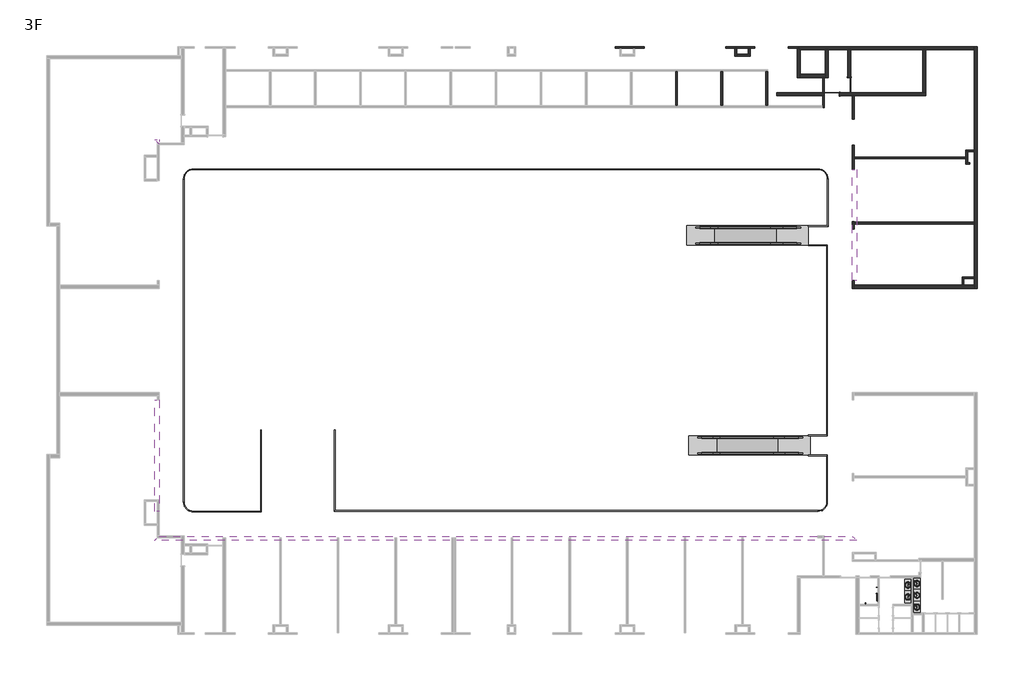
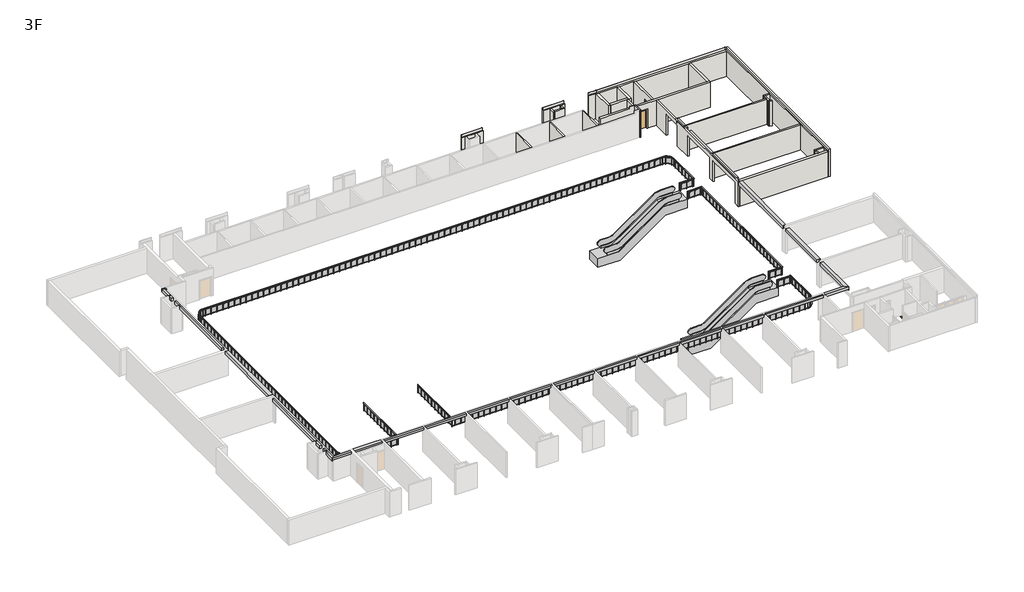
# One storey, part 4 of 4: 27 walls, 9 flow terminals, 4 beams, 3 railings, 2 doors, 2 proxies.
"""IFC4 building model written with IfcOpenShell, lengths in millimetres."""

from ifc_helpers import new_model, si_unit, frame, origin, place, context, project, spatial, polyline, outline, extrude, faceted_brep, transform, mapped, element, save
from components import escalator_escalator_upper_floors_03ccc224, escalator_escalator_upper_floors_265e6ffc, m_single_flush_d_1200x2150_ab82cfb8, m_single_flush_d_1200x2150_9af03719, grab_rail_horizontal_grab_bar_horizontal_3488bc9b, grab_rail_vertical_grab_rail_vertical_4faa361f, sink_bathroom_2_sink_bathroom_2_b4141ae8, sink_bathroom_2_sink_bathroom_2_ad220687, handrail_glass_panel_1c422638, handrail_glass_panel_ca02703f, handrail_glass_panel_252f81a2, handrail_glass_panel_64a25707, handrail_glass_panel_72f4f8c0, handrail_glass_panel_15cabfa0, handrail_glass_panel_71ff9b3e

model = new_model("IFC4")

# Units and contexts
model_context = context("Model", 3, world=origin())
ifc_project = project(units=[si_unit("LENGTHUNIT", "METRE", prefix="MILLI")], contexts=[model_context])

# Site, building, storey
site = spatial("IfcSite", under=ifc_project)
building = spatial("IfcBuilding", under=site)
storey = spatial("IfcBuildingStorey", under=building, Name="3F", Elevation=11850.0)

# Beams
placement = place(None, origin())
element("IfcBeam", 1, ObjectType="M_Concrete-Rectangular Beam : 350 x 550mm", at=placement, inside=storey, context=model_context, shape_type="SweptSolid", body=[
    extrude(outline(polyline([(33312.4134101, 13797.3851347), (32962.4134101, 13447.3851347), (32950.4134101, 13447.3851347), (32950.4134101, 13797.3851347), (33312.4134101, 13797.3851347)])), frame((0.0, 0.0, 14450.0), z_axis=(0.0, 0.0, 1.0), x_axis=(1.0, 0.0, 0.0)), (0.0, 0.0, 1.0), 275.0),
    extrude(outline(polyline([(-22537.5865899, 13447.3851347), (-22887.5865899, 13797.3851347), (-22525.5865899, 13797.3851347), (-22525.5865899, 13447.3851347), (-22537.5865899, 13447.3851347)])), frame((0.0, 0.0, 14450.0), z_axis=(0.0, 0.0, 1.0), x_axis=(1.0, 0.0, 0.0)), (0.0, 0.0, 1.0), 275.0),
])
element("IfcBeam", 2, ObjectType="M_Concrete-Rectangular Beam : 350 x 550mm", at=placement, inside=storey, context=model_context, shape_type="Brep", body=[
    faceted_brep([(32962.4134101, -13522.6148653, 14375.0), (32962.4134101, -17972.6148653, 14375.0), (32962.4134101, -17972.6148653, 14725.0), (32962.4134101, -13522.6148653, 14725.0), (33312.4134101, -18322.6148653, 14375.0), (33312.4134101, -13522.6148653, 14375.0), (33312.4134101, -13522.6148653, 14725.0), (33312.4134101, -18322.6148653, 14725.0)], [[[0, 1, 2, 3]], [[4, 1, 0, 5]], [[4, 5, 6, 7]], [[1, 4, 7, 2]], [[5, 0, 3, 6]], [[3, 2, 7, 6]]]),
    faceted_brep([(33312.4134101, 13797.3851347, 14375.0), (32962.4134101, 13447.3851347, 14375.0), (32962.4134101, 13447.3851347, 14450.0), (32962.4134101, 13447.3851347, 14725.0), (33312.4134101, 13797.3851347, 14725.0), (33312.4134101, 13797.3851347, 14450.0), (32962.4134101, 11997.3851347, 14375.0), (33312.4134101, 11997.3851347, 14375.0), (33312.4134101, 11997.3851347, 14725.0), (32962.4134101, 11997.3851347, 14725.0)], [[[0, 1, 2, 3, 4, 5]], [[6, 7, 8, 9]], [[2, 1, 6, 9, 3]], [[1, 0, 7, 6]], [[0, 5, 4, 8, 7]], [[4, 3, 9, 8]]]),
    faceted_brep([(32962.4134101, -12922.6148653, 14375.0), (33312.4134101, -12922.6148653, 14375.0), (33312.4134101, -12922.6148653, 14725.0), (32962.4134101, -12922.6148653, 14725.0), (32962.4134101, -7072.6148653, 14375.0), (32962.4134101, -7072.6148653, 14725.0), (33312.4134101, -7072.6148653, 14375.0), (33312.4134101, -7072.6148653, 14725.0)], [[[0, 1, 2, 3]], [[4, 0, 3, 5]], [[1, 0, 4, 6]], [[1, 6, 7, 2]], [[6, 4, 5, 7]], [[3, 2, 7, 5]]]),
    faceted_brep([(32962.4134101, -6472.6148653, 14375.0), (33312.4134101, -6472.6148653, 14375.0), (33312.4134101, -6472.6148653, 14725.0), (32962.4134101, -6472.6148653, 14725.0), (32962.4134101, 1897.3851347, 14375.0), (32962.4134101, 1897.3851347, 14725.0), (33312.4134101, 1897.3851347, 14375.0), (33312.4134101, 1897.3851347, 14725.0)], [[[0, 1, 2, 3]], [[4, 0, 3, 5]], [[1, 0, 4, 6]], [[1, 6, 7, 2]], [[6, 4, 5, 7]], [[3, 2, 7, 5]]]),
    faceted_brep([(33312.4134101, 11397.3851347, 14375.0), (32962.4134101, 11397.3851347, 14375.0), (32962.4134101, 11397.3851347, 14725.0), (33312.4134101, 11397.3851347, 14725.0), (32962.4134101, 2497.3851347, 14375.0), (33312.4134101, 2497.3851347, 14375.0), (33312.4134101, 2497.3851347, 14725.0), (32962.4134101, 2497.3851347, 14725.0)], [[[0, 1, 2, 3]], [[4, 5, 6, 7]], [[1, 4, 7, 2]], [[1, 0, 5, 4]], [[5, 0, 3, 6]], [[3, 2, 7, 6]]]),
])
element("IfcBeam", 3, ObjectType="M_Concrete-Rectangular Beam : 350 x 550mm", at=placement, inside=storey, context=model_context, shape_type="SweptSolid", body=[
    extrude(outline(polyline([(-22537.5865899, -17972.6148653), (32962.4134101, -17972.6148653), (33312.4134101, -18322.6148653), (-22887.5865899, -18322.6148653), (-22537.5865899, -17972.6148653)])), frame((0.0, 0.0, 14450.0), z_axis=(0.0, 0.0, 1.0), x_axis=(1.0, 0.0, 0.0)), (0.0, 0.0, 1.0), 275.0),
])
element("IfcBeam", 4, ObjectType="M_Concrete-Rectangular Beam : 350 x 550mm", at=placement, inside=storey, context=model_context, shape_type="Brep", body=[
    faceted_brep([(-22537.5865899, 13447.3851347, 14375.0), (-22537.5865899, 13447.3851347, 14450.0), (-22537.5865899, 13447.3851347, 14725.0), (-22537.5865899, 11997.3851347, 14725.0), (-22537.5865899, 11997.3851347, 14375.0), (-22887.5865899, 13797.3851347, 14375.0), (-22887.5865899, 11997.3851347, 14375.0), (-22887.5865899, 13797.3851347, 14450.0), (-22887.5865899, 11997.3851347, 14725.0), (-22887.5865899, 13797.3851347, 14725.0)], [[[0, 1, 2, 3, 4]], [[5, 0, 4, 6]], [[7, 5, 6, 8, 9]], [[0, 5, 7, 9, 2, 1]], [[6, 4, 3, 8]], [[3, 2, 9, 8]]]),
    faceted_brep([(-22887.5865899, -18322.6148653, 14375.0), (-22537.5865899, -17972.6148653, 14375.0), (-22537.5865899, -17972.6148653, 14450.0), (-22537.5865899, -17972.6148653, 14725.0), (-22887.5865899, -18322.6148653, 14725.0), (-22887.5865899, -18322.6148653, 14450.0), (-22537.5865899, -16572.6148653, 14375.0), (-22887.5865899, -16572.6148653, 14375.0), (-22887.5865899, -16572.6148653, 14725.0), (-22537.5865899, -16572.6148653, 14725.0)], [[[0, 1, 2, 3, 4, 5]], [[6, 7, 8, 9]], [[2, 1, 6, 9, 3]], [[1, 0, 7, 6]], [[0, 5, 4, 8, 7]], [[4, 3, 9, 8]]]),
    faceted_brep([(-22887.5865899, -6472.6148653, 14375.0), (-22537.5865899, -6472.6148653, 14375.0), (-22537.5865899, -6472.6148653, 14725.0), (-22887.5865899, -6472.6148653, 14725.0), (-22537.5865899, 1897.3851347, 14375.0), (-22887.5865899, 1897.3851347, 14375.0), (-22887.5865899, 1897.3851347, 14725.0), (-22537.5865899, 1897.3851347, 14725.0)], [[[0, 1, 2, 3]], [[4, 5, 6, 7]], [[1, 4, 7, 2]], [[1, 0, 5, 4]], [[5, 0, 3, 6]], [[3, 2, 7, 6]]]),
    faceted_brep([(-22537.5865899, -7072.6148653, 14375.0), (-22887.5865899, -7072.6148653, 14375.0), (-22887.5865899, -7072.6148653, 14725.0), (-22537.5865899, -7072.6148653, 14725.0), (-22537.5865899, -15972.6148653, 14375.0), (-22537.5865899, -15972.6148653, 14725.0), (-22887.5865899, -15972.6148653, 14375.0), (-22887.5865899, -15972.6148653, 14725.0)], [[[0, 1, 2, 3]], [[4, 0, 3, 5]], [[1, 0, 4, 6]], [[1, 6, 7, 2]], [[6, 4, 5, 7]], [[3, 2, 7, 5]]]),
    faceted_brep([(-22887.5865899, 2497.3851347, 14375.0), (-22537.5865899, 2497.3851347, 14375.0), (-22537.5865899, 2497.3851347, 14725.0), (-22887.5865899, 2497.3851347, 14725.0), (-22537.5865899, 11397.3851347, 14375.0), (-22887.5865899, 11397.3851347, 14375.0), (-22887.5865899, 11397.3851347, 14725.0), (-22537.5865899, 11397.3851347, 14725.0)], [[[0, 1, 2, 3]], [[4, 5, 6, 7]], [[1, 4, 7, 2]], [[1, 0, 5, 4]], [[5, 0, 3, 6]], [[3, 2, 7, 6]]]),
])

# Proxies
escalator_escalator_upper_floors_shape = escalator_escalator_upper_floors_03ccc224(model_context)
element("IfcBuildingElementProxy", 5, Name="ESCALATOR : ESCALATOR-upper floors", ObjectType="ESCALATOR : ESCALATOR-upper floors", at=placement, inside=storey, context=model_context, shape_type="MappedRepresentation", body=[
    mapped(escalator_escalator_upper_floors_shape, transform((31331.3835332, 6122.3851347, 7900.0), x_axis=(1.0, 0.0, 0.0), y_axis=(0.0, 1.0, 0.0), z_axis=(0.0, 0.0, 1.0))),
])
escalator_escalator_upper_floors_2_shape = escalator_escalator_upper_floors_265e6ffc(model_context)
element("IfcBuildingElementProxy", 6, Name="ESCALATOR : ESCALATOR-upper floors", ObjectType="ESCALATOR : ESCALATOR-upper floors", at=placement, inside=storey, context=model_context, shape_type="MappedRepresentation", body=[
    mapped(escalator_escalator_upper_floors_2_shape, transform((31506.3835332, -10697.6148653, 7900.0), x_axis=(1.0, 0.0, 0.0), y_axis=(0.0, 1.0, 0.0), z_axis=(0.0, 0.0, 1.0))),
])

# Doors
m_single_flush_d_1200x2150_shape = m_single_flush_d_1200x2150_ab82cfb8(model_context)
element("IfcDoor", 7, ObjectType="M_Single-Flush : D-1200x2150", at=placement, inside=storey, context=model_context, shape_type="MappedRepresentation", body=[
    mapped(m_single_flush_d_1200x2150_shape, transform((32705.9134101, 18167.3851347, 11850.0), x_axis=(0.0, -1.0, 0.0), y_axis=(1.0, 0.0, 0.0), z_axis=(0.0, 0.0, 1.0))),
])
m_single_flush_d_1200x2150_2_shape = m_single_flush_d_1200x2150_9af03719(model_context)
element("IfcDoor", 8, ObjectType="M_Single-Flush : D-1200x2150", at=placement, inside=storey, context=model_context, shape_type="MappedRepresentation", body=[
    mapped(m_single_flush_d_1200x2150_2_shape, transform((31312.4134101, 17450.8851347, 11850.0), x_axis=(-1.0, 0.0, 0.0), y_axis=(0.0, -1.0, 0.0), z_axis=(0.0, 0.0, 1.0))),
])

# Flow terminals
grab_rail_horizontal_grab_bar_horizontal_shape = grab_rail_horizontal_grab_bar_horizontal_3488bc9b(model_context)
element("IfcFlowTerminal", 9, ObjectType="Grab Rail - Horizontal : Grab Bar Horizontal", at=placement, inside=storey, context=model_context, shape_type="MappedRepresentation", body=[
    mapped(grab_rail_horizontal_grab_bar_horizontal_shape, transform((34992.4134101, -23724.4105318, 11850.0), x_axis=(0.0, -1.0, 0.0), y_axis=(1.0, 0.0, 0.0), z_axis=(0.0, 0.0, 1.0))),
])
grab_rail_vertical_grab_rail_vertical_shape = grab_rail_vertical_grab_rail_vertical_4faa361f(model_context)
element("IfcFlowTerminal", 10, ObjectType="Grab Rail - Vertical : Grab Rail Vertical", at=placement, inside=storey, context=model_context, shape_type="MappedRepresentation", body=[
    mapped(grab_rail_vertical_grab_rail_vertical_shape, transform((33166.6177436, -23422.6148653, 11850.0), x_axis=(-1.0, 0.0, 0.0), y_axis=(0.0, -1.0, 0.0), z_axis=(0.0, 0.0, 1.0))),
])
element("IfcFlowTerminal", 11, ObjectType="Grab Rail - Vertical : Grab Rail Vertical", at=placement, inside=storey, context=model_context, shape_type="MappedRepresentation", body=[
    mapped(grab_rail_vertical_grab_rail_vertical_shape, transform((34992.4134101, -23424.4105318, 11850.0), x_axis=(0.0, -1.0, 0.0), y_axis=(1.0, 0.0, 0.0), z_axis=(0.0, 0.0, 1.0))),
])
element("IfcFlowTerminal", 12, ObjectType="Grab Rail - Vertical : Grab Rail Vertical", at=placement, inside=storey, context=model_context, shape_type="MappedRepresentation", body=[
    mapped(grab_rail_vertical_grab_rail_vertical_shape, transform((34992.4134101, -22924.4105318, 11850.0), x_axis=(0.0, -1.0, 0.0), y_axis=(1.0, 0.0, 0.0), z_axis=(0.0, 0.0, 1.0))),
])
sink_bathroom_2_sink_bathroom_2_shape = sink_bathroom_2_sink_bathroom_2_b4141ae8(model_context)
element("IfcFlowTerminal", 13, ObjectType="Sink - Bathroom (2) : Sink - Bathroom (2)", at=placement, inside=storey, context=model_context, shape_type="MappedRepresentation", body=[
    mapped(sink_bathroom_2_sink_bathroom_2_shape, transform((37822.4134101, -22732.4647318, 11850.0), x_axis=(0.0, 1.0, 0.0), y_axis=(-1.0, 0.0, 0.0), z_axis=(0.0, 0.0, 1.0))),
])
element("IfcFlowTerminal", 14, ObjectType="Sink - Bathroom (2) : Sink - Bathroom (2)", at=placement, inside=storey, context=model_context, shape_type="MappedRepresentation", body=[
    mapped(sink_bathroom_2_sink_bathroom_2_shape, transform((37822.4134101, -21782.4647318, 11850.0), x_axis=(0.0, 1.0, 0.0), y_axis=(-1.0, 0.0, 0.0), z_axis=(0.0, 0.0, 1.0))),
])
element("IfcFlowTerminal", 15, ObjectType="Sink - Bathroom (2) : Sink - Bathroom (2)", at=placement, inside=storey, context=model_context, shape_type="MappedRepresentation", body=[
    mapped(sink_bathroom_2_sink_bathroom_2_shape, transform((37822.4134101, -23682.4647318, 11850.0), x_axis=(0.0, 1.0, 0.0), y_axis=(-1.0, 0.0, 0.0), z_axis=(0.0, 0.0, 1.0))),
])
sink_bathroom_2_sink_bathroom_2_2_shape = sink_bathroom_2_sink_bathroom_2_ad220687(model_context)
element("IfcFlowTerminal", 16, ObjectType="Sink - Bathroom (2) : Sink - Bathroom (2)", at=placement, inside=storey, context=model_context, shape_type="MappedRepresentation", body=[
    mapped(sink_bathroom_2_sink_bathroom_2_2_shape, transform((37707.4134101, -22859.9647318, 11850.0), x_axis=(0.0, 1.0, 0.0), y_axis=(-1.0, 0.0, 0.0), z_axis=(0.0, 0.0, 1.0))),
])
element("IfcFlowTerminal", 17, ObjectType="Sink - Bathroom (2) : Sink - Bathroom (2)", at=placement, inside=storey, context=model_context, shape_type="MappedRepresentation", body=[
    mapped(sink_bathroom_2_sink_bathroom_2_2_shape, transform((37707.4134101, -21909.9647318, 11850.0), x_axis=(0.0, 1.0, 0.0), y_axis=(-1.0, 0.0, 0.0), z_axis=(0.0, 0.0, 1.0))),
])

# Railings
handrail_glass_panel_shape = handrail_glass_panel_1c422638(model_context)
handrail_glass_panel_2_shape = handrail_glass_panel_ca02703f(model_context)
handrail_glass_panel_3_shape = handrail_glass_panel_252f81a2(model_context)
handrail_glass_panel_4_shape = handrail_glass_panel_64a25707(model_context)
element("IfcRailing", 18, ObjectType="Handrail - Glass Panel", at=placement, inside=storey, context=model_context, shape_type="MappedRepresentation", body=[
    mapped(handrail_glass_panel_shape, transform((0.0, 0.0, 0.0), x_axis=(1.0, 0.0, 0.0), y_axis=(0.0, 1.0, 0.0), z_axis=(0.0, 0.0, 1.0))),
    mapped(handrail_glass_panel_2_shape, transform((0.0, 0.0, 0.0), x_axis=(1.0, 0.0, 0.0), y_axis=(0.0, 1.0, 0.0), z_axis=(0.0, 0.0, 1.0))),
    mapped(handrail_glass_panel_3_shape, transform((0.0, 0.0, 0.0), x_axis=(1.0, 0.0, 0.0), y_axis=(0.0, 1.0, 0.0), z_axis=(0.0, 0.0, 1.0))),
    mapped(handrail_glass_panel_4_shape, transform((0.0, 0.0, 0.0), x_axis=(1.0, 0.0, 0.0), y_axis=(0.0, 1.0, 0.0), z_axis=(0.0, 0.0, 1.0))),
])
handrail_glass_panel_5_shape = handrail_glass_panel_72f4f8c0(model_context)
element("IfcRailing", 19, ObjectType="Handrail - Glass Panel", at=placement, inside=storey, context=model_context, shape_type="MappedRepresentation", body=[
    mapped(handrail_glass_panel_5_shape, transform((0.0, 0.0, 0.0), x_axis=(1.0, 0.0, 0.0), y_axis=(0.0, 1.0, 0.0), z_axis=(0.0, 0.0, 1.0))),
])
handrail_glass_panel_6_shape = handrail_glass_panel_15cabfa0(model_context)
handrail_glass_panel_7_shape = handrail_glass_panel_71ff9b3e(model_context)
element("IfcRailing", 20, ObjectType="Handrail - Glass Panel", at=placement, inside=storey, context=model_context, shape_type="MappedRepresentation", body=[
    mapped(handrail_glass_panel_6_shape, transform((0.0, 0.0, 0.0), x_axis=(1.0, 0.0, 0.0), y_axis=(0.0, 1.0, 0.0), z_axis=(0.0, 0.0, 1.0))),
    mapped(handrail_glass_panel_7_shape, transform((0.0, 0.0, 0.0), x_axis=(1.0, 0.0, 0.0), y_axis=(0.0, 1.0, 0.0), z_axis=(0.0, 0.0, 1.0))),
])

# Walls
element("IfcWall", 21, ObjectType="wall-115", at=placement, inside=storey, context=model_context, shape_type="Brep", body=[
    faceted_brep([(42055.4134101, 12824.8851347, 11850.0), (42055.4134101, 12404.5507406, 11850.0), (42055.4134101, 12262.5507406, 11850.0), (42055.4134101, 11962.3851347, 11850.0), (42055.4134101, 11962.3851347, 14725.0), (42055.4134101, 12262.5507406, 14725.0), (42055.4134101, 12404.5507406, 14725.0), (42055.4134101, 12824.8851347, 14725.0), (42197.4134101, 11962.3851347, 11850.0), (42197.4134101, 12824.8851347, 11850.0), (42197.4134101, 12824.8851347, 14725.0), (42197.4134101, 11962.3851347, 14725.0)], [[[0, 1, 2, 3, 4, 5, 6, 7]], [[8, 9, 10, 11]], [[3, 2, 1, 0, 9, 8]], [[3, 8, 11, 4]], [[9, 0, 7, 10]], [[7, 6, 5, 4, 11, 10]]]),
])
element("IfcWall", 22, ObjectType="wall-115", at=placement, inside=storey, context=model_context, shape_type="Brep", body=[
    faceted_brep([(42055.4134101, 11820.3851347, 11850.0), (42362.4134101, 11820.3851347, 11850.0), (42362.4134101, 11820.3851347, 14725.0), (42055.4134101, 11820.3851347, 14725.0), (42362.4134101, 11962.3851347, 11850.0), (42197.4134101, 11962.3851347, 11850.0), (42055.4134101, 11962.3851347, 11850.0), (42055.4134101, 11962.3851347, 14725.0), (42197.4134101, 11962.3851347, 14725.0), (42362.4134101, 11962.3851347, 14725.0)], [[[0, 1, 2, 3]], [[4, 5, 6, 7, 8, 9]], [[1, 0, 6, 5, 4]], [[1, 4, 9, 2]], [[6, 0, 3, 7]], [[3, 2, 9, 8, 7]]]),
])
element("IfcWall", 23, ObjectType="wall-115", at=placement, inside=storey, context=model_context, shape_type="Brep", body=[
    faceted_brep([(42717.4134101, 2804.3851347, 11850.0), (41750.4134101, 2804.3851347, 11850.0), (41750.4134101, 2804.3851347, 14725.0), (42717.4134101, 2804.3851347, 14725.0), (41750.4134101, 2662.3851347, 11850.0), (41892.4134101, 2662.3851347, 11850.0), (42717.4134101, 2662.3851347, 11850.0), (42717.4134101, 2662.3851347, 14725.0), (41892.4134101, 2662.3851347, 14725.0), (41750.4134101, 2662.3851347, 14725.0)], [[[0, 1, 2, 3]], [[4, 5, 6, 7, 8, 9]], [[1, 0, 6, 5, 4]], [[1, 4, 9, 2]], [[6, 0, 3, 7]], [[3, 2, 9, 8, 7]]]),
])
element("IfcWall", 24, ObjectType="wall-115", at=placement, inside=storey, context=model_context, shape_type="SweptSolid", body=[
    extrude(outline(polyline([(41750.4134101, 2142.3851347), (41750.4134101, 2662.3851347), (41892.4134101, 2662.3851347), (41892.4134101, 2142.3851347), (41750.4134101, 2142.3851347)])), frame((0.0, 0.0, 11850.0), z_axis=(0.0, 0.0, 1.0), x_axis=(1.0, 0.0, 0.0)), (0.0, 0.0, 1.0), 2875.0),
])
element("IfcWall", 25, ObjectType="wall-115", at=placement, inside=storey, context=model_context, shape_type="Brep", body=[
    faceted_brep([(30724.4134101, 17579.3851347, 11850.0), (30724.4134101, 18772.3851347, 11850.0), (30724.4134101, 18772.3851347, 14725.0), (30724.4134101, 17579.3851347, 14725.0), (30582.4134101, 18772.3851347, 11850.0), (30582.4134101, 17579.3851347, 11850.0), (30582.4134101, 17579.3851347, 14725.0), (30582.4134101, 18772.3851347, 14725.0), (30712.4134101, 17579.3851347, 11850.0)], [[[0, 1, 2, 3]], [[4, 5, 6, 7]], [[4, 1, 0, 8, 5]], [[1, 4, 7, 2]], [[5, 8, 0, 3, 6]], [[3, 2, 7, 6]]]),
    faceted_brep([(30724.4134101, 16360.3851347, 11850.0), (30724.4134101, 17322.3851347, 11850.0), (30724.4134101, 17322.3851347, 14725.0), (30724.4134101, 16360.3851347, 14725.0), (30582.4134101, 16360.3851347, 11850.0), (30582.4134101, 16360.3851347, 15000.0), (30582.4134101, 16502.3851347, 15000.0), (30582.4134101, 17322.3851347, 15000.0), (30582.4134101, 17322.3851347, 11850.0), (30582.4134101, 16502.3851347, 11850.0), (30712.4134101, 17322.3851347, 11850.0), (30672.4134101, 16360.3851347, 15000.0), (30672.4134101, 17322.3851347, 15000.0), (30672.4134101, 16360.3851347, 14725.0), (30672.4134101, 17322.3851347, 14725.0)], [[[0, 1, 2, 3]], [[4, 5, 6, 7, 8, 9]], [[0, 4, 9, 8, 10, 1]], [[7, 6, 5, 11, 12]], [[5, 4, 0, 3, 13, 11]], [[8, 7, 12, 14, 2, 1, 10]], [[14, 13, 3, 2]], [[13, 14, 12, 11]]]),
])
element("IfcWall", 26, ObjectType="wall-115", at=placement, inside=storey, context=model_context, shape_type="Brep", body=[
    faceted_brep([(42055.4134101, 12824.8851347, 11850.0), (42197.4134101, 12824.8851347, 11850.0), (42717.4134101, 12824.8851347, 11850.0), (42717.4134101, 12824.8851347, 14725.0), (42197.4134101, 12824.8851347, 14725.0), (42055.4134101, 12824.8851347, 14725.0), (42717.4134101, 12966.8851347, 11850.0), (42055.4134101, 12966.8851347, 11850.0), (42055.4134101, 12966.8851347, 14725.0), (42717.4134101, 12966.8851347, 14725.0)], [[[0, 1, 2, 3, 4, 5]], [[6, 7, 8, 9]], [[2, 1, 0, 7, 6]], [[7, 0, 5, 8]], [[2, 6, 9, 3]], [[5, 4, 3, 9, 8]]]),
])
element("IfcWall", 27, ObjectType="wall-115", at=placement, inside=storey, context=model_context, shape_type="SweptSolid", body=[
    extrude(outline(polyline([(18812.4134101, 16502.3851347), (18812.4134101, 19272.3851347), (18954.4134101, 19272.3851347), (18954.4134101, 16502.3851347), (18812.4134101, 16502.3851347)])), frame((0.0, 0.0, 11850.0), z_axis=(0.0, 0.0, 1.0), x_axis=(1.0, 0.0, 0.0)), (0.0, 0.0, 1.0), 2875.0),
])
element("IfcWall", 28, ObjectType="wall-115", at=placement, inside=storey, context=model_context, shape_type="SweptSolid", body=[
    extrude(outline(polyline([(22427.4134101, 16502.3851347), (22427.4134101, 19272.3851347), (22569.4134101, 19272.3851347), (22569.4134101, 16502.3851347), (22427.4134101, 16502.3851347)])), frame((0.0, 0.0, 11850.0), z_axis=(0.0, 0.0, 1.0), x_axis=(1.0, 0.0, 0.0)), (0.0, 0.0, 1.0), 2875.0),
])
element("IfcWall", 29, ObjectType="wall-115", at=placement, inside=storey, context=model_context, shape_type="SweptSolid", body=[
    extrude(outline(polyline([(26042.4134101, 16502.3851347), (26042.4134101, 19272.3851347), (26184.4134101, 19272.3851347), (26184.4134101, 16502.3851347), (26042.4134101, 16502.3851347)])), frame((0.0, 0.0, 11850.0), z_axis=(0.0, 0.0, 1.0), x_axis=(1.0, 0.0, 0.0)), (0.0, 0.0, 1.0), 2875.0),
])
element("IfcWall", 30, ObjectType="wall-115", at=placement, inside=storey, context=model_context, shape_type="Brep", body=[
    faceted_brep([(13967.4134101, 21117.3851347, 11850.0), (14327.4134101, 21117.3851347, 11850.0), (14469.4134101, 21117.3851347, 11850.0), (15415.4134101, 21117.3851347, 11850.0), (15557.4134101, 21117.3851347, 11850.0), (16287.4134101, 21117.3851347, 11850.0), (16287.4134101, 21117.3851347, 14725.0), (15557.4134101, 21117.3851347, 14725.0), (15415.4134101, 21117.3851347, 14725.0), (14469.4134101, 21117.3851347, 14725.0), (14327.4134101, 21117.3851347, 14725.0), (13967.4134101, 21117.3851347, 14725.0), (16287.4134101, 21259.3851347, 11850.0), (13967.4134101, 21259.3851347, 11850.0), (13967.4134101, 21259.3851347, 15000.0), (16287.4134101, 21259.3851347, 15000.0), (16287.4134101, 21235.3851347, 15000.0), (16287.4134101, 21235.3851347, 14725.0), (13967.4134101, 21235.3851347, 15000.0), (13967.4134101, 21235.3851347, 14725.0)], [[[0, 1, 2, 3, 4, 5, 6, 7, 8, 9, 10, 11]], [[12, 13, 14, 15]], [[5, 4, 3, 2, 1, 0, 13, 12]], [[12, 15, 16, 17, 6, 5]], [[15, 14, 18, 16]], [[14, 13, 0, 11, 19, 18]], [[17, 19, 11, 10, 9, 8, 7, 6]], [[19, 17, 16, 18]]]),
])
element("IfcWall", 31, ObjectType="wall-115", at=placement, inside=storey, context=model_context, shape_type="Brep", body=[
    faceted_brep([(22827.4134101, 21117.3851347, 11850.0), (23557.4134101, 21117.3851347, 11850.0), (23699.4134101, 21117.3851347, 11850.0), (24645.4134101, 21117.3851347, 11850.0), (24787.4134101, 21117.3851347, 11850.0), (25147.4134101, 21117.3851347, 11850.0), (25147.4134101, 21117.3851347, 14725.0), (24787.4134101, 21117.3851347, 14725.0), (24645.4134101, 21117.3851347, 14725.0), (23699.4134101, 21117.3851347, 14725.0), (23557.4134101, 21117.3851347, 14725.0), (22827.4134101, 21117.3851347, 14725.0), (25147.4134101, 21259.3851347, 11850.0), (22827.4134101, 21259.3851347, 11850.0), (22827.4134101, 21259.3851347, 15000.0), (25147.4134101, 21259.3851347, 15000.0), (25147.4134101, 21235.3851347, 15000.0), (25147.4134101, 21235.3851347, 14725.0), (22827.4134101, 21235.3851347, 15000.0), (22827.4134101, 21235.3851347, 14725.0)], [[[0, 1, 2, 3, 4, 5, 6, 7, 8, 9, 10, 11]], [[12, 13, 14, 15]], [[5, 4, 3, 2, 1, 0, 13, 12]], [[12, 15, 16, 17, 6, 5]], [[15, 14, 18, 16]], [[14, 13, 0, 11, 19, 18]], [[17, 19, 11, 10, 9, 8, 7, 6]], [[19, 17, 16, 18]]]),
])
element("IfcWall", 32, ObjectType="wall-115", at=placement, inside=storey, context=model_context, shape_type="Brep", body=[
    faceted_brep([(27812.4134101, 21117.3851347, 11850.0), (28542.4134101, 21117.3851347, 11850.0), (28670.9134101, 21117.3851347, 11850.0), (28670.9134101, 21117.3851347, 14725.0), (28542.4134101, 21117.3851347, 14725.0), (27812.4134101, 21117.3851347, 14725.0), (28670.9134101, 21259.3851347, 11850.0), (27812.4134101, 21259.3851347, 11850.0), (27812.4134101, 21259.3851347, 15000.0), (28670.9134101, 21259.3851347, 15000.0), (28670.9134101, 21235.3851347, 15000.0), (28670.9134101, 21235.3851347, 14725.0), (27812.4134101, 21235.3851347, 15000.0), (27812.4134101, 21235.3851347, 14725.0)], [[[0, 1, 2, 3, 4, 5]], [[6, 7, 8, 9]], [[2, 1, 0, 7, 6]], [[6, 9, 10, 11, 3, 2]], [[9, 8, 12, 10]], [[8, 7, 0, 5, 13, 12]], [[11, 13, 5, 4, 3]], [[13, 11, 10, 12]]]),
])
element("IfcWall", 33, ObjectType="wall-115", at=placement, inside=storey, context=model_context, shape_type="SweptSolid", body=[
    extrude(outline(polyline([(42717.4134101, 7047.8851347), (33092.4134101, 7047.8851347), (33092.4134101, 7189.8851347), (42717.4134101, 7189.8851347), (42717.4134101, 7047.8851347)])), frame((0.0, 0.0, 11850.0), z_axis=(0.0, 0.0, 1.0), x_axis=(1.0, 0.0, 0.0)), (0.0, 0.0, 1.0), 2875.0),
])
element("IfcWall", 34, ObjectType="wall-115", at=placement, inside=storey, context=model_context, shape_type="SweptSolid", body=[
    extrude(outline(polyline([(42055.4134101, 12262.5507406), (33092.4134101, 12262.5507406), (33092.4134101, 12404.5507406), (42055.4134101, 12404.5507406), (42055.4134101, 12262.5507406)])), frame((0.0, 0.0, 11850.0), z_axis=(0.0, 0.0, 1.0), x_axis=(1.0, 0.0, 0.0)), (0.0, 0.0, 1.0), 2875.0),
])
element("IfcWall", 35, ObjectType="wall-115", at=placement, inside=storey, context=model_context, shape_type="Brep", body=[
    faceted_brep([(32950.4134101, 2497.3851347, 11850.0), (32950.4134101, 1885.3851347, 11850.0), (32950.4134101, 1885.3851347, 14725.0), (32950.4134101, 14475.3851347, 14725.0), (32950.4134101, 17322.3851347, 14725.0), (32950.4134101, 17322.3851347, 11850.0), (32950.4134101, 15437.9734756, 11850.0), (32950.4134101, 15437.9734756, 14250.0), (32950.4134101, 13356.1280057, 14250.0), (32950.4134101, 13356.1280057, 11850.0), (32950.4134101, 11397.3851347, 11850.0), (32950.4134101, 11397.3851347, 14250.0), (32950.4134101, 7247.3851347, 14250.0), (32950.4134101, 7247.3851347, 11850.0), (32950.4134101, 6647.3851347, 11850.0), (32950.4134101, 6647.3851347, 14250.0), (32950.4134101, 2497.3851347, 14250.0), (33092.4134101, 1885.3851347, 11850.0), (33092.4134101, 2142.3851347, 11850.0), (33092.4134101, 2497.3851347, 11850.0), (33092.4134101, 2497.3851347, 14250.0), (33092.4134101, 6647.3851347, 14250.0), (33092.4134101, 6647.3851347, 11850.0), (33092.4134101, 7047.8851347, 11850.0), (33092.4134101, 7189.8851347, 11850.0), (33092.4134101, 7247.3851347, 11850.0), (33092.4134101, 7247.3851347, 14250.0), (33092.4134101, 11397.3851347, 14250.0), (33092.4134101, 11397.3851347, 11850.0), (33092.4134101, 12262.5507406, 11850.0), (33092.4134101, 12404.5507406, 11850.0), (33092.4134101, 13356.1280057, 11850.0), (33092.4134101, 13356.1280057, 14250.0), (33092.4134101, 15437.9734756, 14250.0), (33092.4134101, 15437.9734756, 11850.0), (33092.4134101, 17322.3851347, 11850.0), (33092.4134101, 17322.3851347, 14725.0), (33092.4134101, 12404.5507406, 14725.0), (33092.4134101, 12262.5507406, 14725.0), (33092.4134101, 7189.8851347, 14725.0), (33092.4134101, 7047.8851347, 14725.0), (33092.4134101, 2142.3851347, 14725.0), (33092.4134101, 1885.3851347, 14725.0)], [[[0, 1, 2, 3, 4, 5, 6, 7, 8, 9, 10, 11, 12, 13, 14, 15, 16]], [[17, 18, 19, 20, 21, 22, 23, 24, 25, 26, 27, 28, 29, 30, 31, 32, 33, 34, 35, 36, 37, 38, 39, 40, 41, 42]], [[17, 1, 0, 19, 18]], [[5, 35, 34, 6]], [[22, 14, 13, 25, 24, 23]], [[28, 10, 9, 31, 30, 29]], [[1, 17, 42, 2]], [[35, 5, 4, 36]], [[15, 21, 20, 16]], [[16, 20, 19, 0]], [[21, 15, 14, 22]], [[27, 26, 12, 11]], [[28, 27, 11, 10]], [[26, 25, 13, 12]], [[33, 32, 8, 7]], [[34, 33, 7, 6]], [[32, 31, 9, 8]], [[3, 2, 42, 41, 40, 39, 38, 37, 36, 4]]]),
])
element("IfcWall", 36, ObjectType="wall-115", at=placement, inside=storey, context=model_context, shape_type="Brep", body=[
    faceted_brep([(23557.4134101, 21117.3851347, 11850.0), (23557.4134101, 20487.3851347, 11850.0), (23557.4134101, 20487.3851347, 14725.0), (23557.4134101, 21117.3851347, 14725.0), (23699.4134101, 20487.3851347, 11850.0), (23699.4134101, 20629.3851347, 11850.0), (23699.4134101, 21117.3851347, 11850.0), (23699.4134101, 21117.3851347, 14725.0), (23699.4134101, 20629.3851347, 14725.0), (23699.4134101, 20487.3851347, 14725.0)], [[[0, 1, 2, 3]], [[4, 5, 6, 7, 8, 9]], [[1, 0, 6, 5, 4]], [[1, 4, 9, 2]], [[6, 0, 3, 7]], [[3, 2, 9, 8, 7]]]),
])
element("IfcWall", 37, ObjectType="wall-115", at=placement, inside=storey, context=model_context, shape_type="Brep", body=[
    faceted_brep([(23699.4134101, 20487.3851347, 11850.0), (24787.4134101, 20487.3851347, 11850.0), (24787.4134101, 20487.3851347, 14725.0), (23699.4134101, 20487.3851347, 14725.0), (24787.4134101, 20629.3851347, 11850.0), (24645.4134101, 20629.3851347, 11850.0), (23699.4134101, 20629.3851347, 11850.0), (23699.4134101, 20629.3851347, 14725.0), (24645.4134101, 20629.3851347, 14725.0), (24787.4134101, 20629.3851347, 14725.0)], [[[0, 1, 2, 3]], [[4, 5, 6, 7, 8, 9]], [[1, 0, 6, 5, 4]], [[1, 4, 9, 2]], [[6, 0, 3, 7]], [[3, 2, 9, 8, 7]]]),
])
element("IfcWall", 38, ObjectType="wall-115", at=placement, inside=storey, context=model_context, shape_type="SweptSolid", body=[
    extrude(outline(polyline([(24787.4134101, 21117.3851347), (24787.4134101, 20629.3851347), (24645.4134101, 20629.3851347), (24645.4134101, 21117.3851347), (24787.4134101, 21117.3851347)])), frame((0.0, 0.0, 11850.0), z_axis=(0.0, 0.0, 1.0), x_axis=(1.0, 0.0, 0.0)), (0.0, 0.0, 1.0), 2875.0),
])
element("IfcWall", 39, ObjectType="wall-230", at=placement, inside=storey, context=model_context, shape_type="Brep", body=[
    faceted_brep([(28799.4134101, 18772.3851347, 11850.0), (28799.4134101, 19029.3851347, 11850.0), (28799.4134101, 21002.3851347, 11850.0), (28799.4134101, 21002.3851347, 14725.0), (28799.4134101, 19029.3851347, 14725.0), (28799.4134101, 18772.3851347, 14725.0), (28542.4134101, 21117.3851347, 11850.0), (28542.4134101, 18772.3851347, 11850.0), (28542.4134101, 18772.3851347, 14725.0), (28542.4134101, 21117.3851347, 14725.0), (28670.9134101, 21117.3851347, 11850.0), (28670.9134101, 21002.3851347, 11850.0), (28670.9134101, 21002.3851347, 14725.0), (28670.9134101, 21117.3851347, 14725.0)], [[[0, 1, 2, 3, 4, 5]], [[6, 7, 8, 9]], [[2, 1, 0, 7, 6, 10, 11]], [[7, 0, 5, 8]], [[2, 11, 12, 3]], [[11, 10, 13, 12]], [[10, 6, 9, 13]], [[5, 4, 3, 12, 13, 9, 8]]]),
])
element("IfcWall", 40, ObjectType="wall-230", at=placement, inside=storey, context=model_context, shape_type="Brep", body=[
    faceted_brep([(38834.4134101, 17579.3851347, 11850.0), (38577.4134101, 17579.3851347, 11850.0), (32834.4134101, 17579.3851347, 11850.0), (32834.4134101, 17579.3851347, 14000.0), (32577.4134101, 17579.3851347, 14000.0), (32577.4134101, 17579.3851347, 11850.0), (31912.4134101, 17579.3851347, 11850.0), (31912.4134101, 17579.3851347, 14000.0), (30712.4134101, 17579.3851347, 14000.0), (30712.4134101, 17579.3851347, 11850.0), (30582.4134101, 17579.3851347, 11850.0), (26907.4134101, 17579.3851347, 11850.0), (26907.4134101, 17579.3851347, 14725.0), (30582.4134101, 17579.3851347, 14725.0), (30724.4134101, 17579.3851347, 14725.0), (32577.4134101, 17579.3851347, 14725.0), (32834.4134101, 17579.3851347, 14725.0), (38577.4134101, 17579.3851347, 14725.0), (38834.4134101, 17579.3851347, 14725.0), (26907.4134101, 17322.3851347, 11850.0), (30582.4134101, 17322.3851347, 11850.0), (30712.4134101, 17322.3851347, 11850.0), (30712.4134101, 17322.3851347, 14000.0), (31912.4134101, 17322.3851347, 14000.0), (31912.4134101, 17322.3851347, 11850.0), (32950.4134101, 17322.3851347, 11850.0), (33092.4134101, 17322.3851347, 11850.0), (38834.4134101, 17322.3851347, 11850.0), (38834.4134101, 17322.3851347, 14725.0), (33092.4134101, 17322.3851347, 14725.0), (32950.4134101, 17322.3851347, 14725.0), (30724.4134101, 17322.3851347, 14725.0), (30672.4134101, 17322.3851347, 14725.0), (30672.4134101, 17322.3851347, 15000.0), (30582.4134101, 17322.3851347, 15000.0), (30072.4134101, 17322.3851347, 15000.0), (30072.4134101, 17322.3851347, 14725.0), (26907.4134101, 17322.3851347, 14725.0), (32577.4134101, 17567.3851347, 11850.0), (32834.4134101, 17567.3851347, 11850.0), (30672.4134101, 17337.3851347, 15000.0), (30072.4134101, 17337.3851347, 15000.0), (32577.4134101, 17567.3851347, 14000.0), (32834.4134101, 17567.3851347, 14000.0), (30072.4134101, 17337.3851347, 14725.0), (30672.4134101, 17337.3851347, 14725.0)], [[[0, 1, 2, 3, 4, 5, 6, 7, 8, 9, 10, 11, 12, 13, 14, 15, 16, 17, 18]], [[19, 20, 21, 22, 23, 24, 25, 26, 27, 28, 29, 30, 31, 32, 33, 34, 35, 36, 37]], [[19, 11, 10, 9, 21, 20]], [[0, 27, 26, 25, 24, 6, 5, 38, 39, 2, 1]], [[11, 19, 37, 12]], [[35, 34, 33, 40, 41]], [[27, 0, 18, 28]], [[42, 38, 5, 4]], [[39, 43, 3, 2]], [[38, 42, 43, 39]], [[43, 42, 4, 3]], [[8, 22, 21, 9]], [[22, 8, 7, 23]], [[23, 7, 6, 24]], [[44, 45, 32, 31, 30, 29, 28, 18, 17, 16, 15, 14, 13, 12, 37, 36]], [[45, 44, 41, 40]], [[41, 44, 36, 35]], [[45, 40, 33, 32]]]),
])
element("IfcWall", 41, ObjectType="wall-230", at=placement, inside=storey, context=model_context, shape_type="Brep", body=[
    faceted_brep([(42974.4134101, 1885.3851347, 11850.0), (42974.4134101, 21259.3851347, 11850.0), (42974.4134101, 21259.3851347, 15000.0), (42974.4134101, 1885.3851347, 15000.0), (42717.4134101, 21259.3851347, 11850.0), (42717.4134101, 21002.3851347, 11850.0), (42717.4134101, 12966.8851347, 11850.0), (42717.4134101, 12824.8851347, 11850.0), (42717.4134101, 7189.8851347, 11850.0), (42717.4134101, 7047.8851347, 11850.0), (42717.4134101, 2804.3851347, 11850.0), (42717.4134101, 2662.3851347, 11850.0), (42717.4134101, 2142.3851347, 11850.0), (42717.4134101, 1885.3851347, 11850.0), (42717.4134101, 1885.3851347, 14725.0), (42717.4134101, 2142.3851347, 14725.0), (42717.4134101, 2662.3851347, 14725.0), (42717.4134101, 2804.3851347, 14725.0), (42717.4134101, 7047.8851347, 14725.0), (42717.4134101, 7189.8851347, 14725.0), (42717.4134101, 12824.8851347, 14725.0), (42717.4134101, 12966.8851347, 14725.0), (42717.4134101, 21002.3851347, 14725.0), (42717.4134101, 21235.3851347, 14725.0), (42717.4134101, 21235.3851347, 15000.0), (42717.4134101, 21259.3851347, 15000.0), (42824.4134101, 21235.3851347, 15000.0), (42824.4134101, 1885.3851347, 15000.0), (42824.4134101, 1885.3851347, 14725.0), (42824.4134101, 21235.3851347, 14725.0)], [[[0, 1, 2, 3]], [[4, 5, 6, 7, 8, 9, 10, 11, 12, 13, 14, 15, 16, 17, 18, 19, 20, 21, 22, 23, 24, 25]], [[1, 0, 13, 12, 11, 10, 9, 8, 7, 6, 5, 4]], [[3, 2, 25, 24, 26, 27]], [[0, 3, 27, 28, 14, 13]], [[2, 1, 4, 25]], [[28, 29, 23, 22, 21, 20, 19, 18, 17, 16, 15, 14]], [[29, 26, 24, 23]], [[29, 28, 27, 26]]]),
])
element("IfcWall", 42, ObjectType="wall-230", at=placement, inside=storey, context=model_context, shape_type="SweptSolid", body=[
    extrude(outline(polyline([(38834.4134101, 21002.3851347), (38834.4134101, 17579.3851347), (38577.4134101, 17579.3851347), (38577.4134101, 21002.3851347), (38834.4134101, 21002.3851347)])), frame((0.0, 0.0, 11850.0), z_axis=(0.0, 0.0, 1.0), x_axis=(1.0, 0.0, 0.0)), (0.0, 0.0, 1.0), 2875.0),
])
element("IfcWall", 43, ObjectType="wall-230", at=placement, inside=storey, context=model_context, shape_type="Brep", body=[
    faceted_brep([(30775.4134101, 21002.3851347, 11850.0), (30775.4134101, 19029.3851347, 11850.0), (30775.4134101, 18772.3851347, 11850.0), (30775.4134101, 18772.3851347, 14725.0), (30775.4134101, 19029.3851347, 14725.0), (30775.4134101, 21002.3851347, 14725.0), (31032.4134101, 18772.3851347, 11850.0), (31032.4134101, 21002.3851347, 11850.0), (31032.4134101, 21002.3851347, 14725.0), (31032.4134101, 18772.3851347, 14725.0)], [[[0, 1, 2, 3, 4, 5]], [[6, 7, 8, 9]], [[2, 1, 0, 7, 6]], [[2, 6, 9, 3]], [[7, 0, 5, 8]], [[5, 4, 3, 9, 8]]]),
])
element("IfcWall", 44, ObjectType="wall-230", at=placement, inside=storey, context=model_context, shape_type="Brep", body=[
    faceted_brep([(30775.4134101, 19029.3851347, 11850.0), (28799.4134101, 19029.3851347, 11850.0), (28799.4134101, 19029.3851347, 14725.0), (30775.4134101, 19029.3851347, 14725.0), (28799.4134101, 18772.3851347, 11850.0), (30582.4134101, 18772.3851347, 11850.0), (30724.4134101, 18772.3851347, 11850.0), (30775.4134101, 18772.3851347, 11850.0), (30775.4134101, 18772.3851347, 14725.0), (30724.4134101, 18772.3851347, 14725.0), (30582.4134101, 18772.3851347, 14725.0), (28799.4134101, 18772.3851347, 14725.0)], [[[0, 1, 2, 3]], [[4, 5, 6, 7, 8, 9, 10, 11]], [[1, 0, 7, 6, 5, 4]], [[7, 0, 3, 8]], [[1, 4, 11, 2]], [[3, 2, 11, 10, 9, 8]]]),
])
element("IfcWall", 45, ObjectType="wall-230", at=placement, inside=storey, context=model_context, shape_type="SweptSolid", body=[
    extrude(outline(polyline([(21002.3851347, 11850.0), (18767.3851347, 11850.0), (18767.3851347, 14000.0), (17579.3851347, 14000.0), (17579.3851347, 14725.0), (21002.3851347, 14725.0), (21002.3851347, 11850.0)])), frame((32577.4134101, 0.0, 0.0), z_axis=(1.0, 0.0, 0.0), x_axis=(0.0, 1.0, 0.0)), (0.0, 0.0, 1.0), 257.0),
])
element("IfcWall", 46, ObjectType="wall-230", at=placement, inside=storey, context=model_context, shape_type="Brep", body=[
    faceted_brep([(42717.4134101, 21259.3851347, 11850.0), (28670.9134101, 21259.3851347, 11850.0), (28670.9134101, 21259.3851347, 15000.0), (42717.4134101, 21259.3851347, 15000.0), (28670.9134101, 21002.3851347, 11850.0), (28799.4134101, 21002.3851347, 11850.0), (30775.4134101, 21002.3851347, 11850.0), (31032.4134101, 21002.3851347, 11850.0), (32577.4134101, 21002.3851347, 11850.0), (32834.4134101, 21002.3851347, 11850.0), (38577.4134101, 21002.3851347, 11850.0), (38834.4134101, 21002.3851347, 11850.0), (42717.4134101, 21002.3851347, 11850.0), (42717.4134101, 21002.3851347, 14725.0), (38834.4134101, 21002.3851347, 14725.0), (38577.4134101, 21002.3851347, 14725.0), (32834.4134101, 21002.3851347, 14725.0), (32577.4134101, 21002.3851347, 14725.0), (31032.4134101, 21002.3851347, 14725.0), (30775.4134101, 21002.3851347, 14725.0), (28799.4134101, 21002.3851347, 14725.0), (28670.9134101, 21002.3851347, 14725.0), (28670.9134101, 21117.3851347, 11850.0), (28670.9134101, 21117.3851347, 14725.0), (28670.9134101, 21235.3851347, 14725.0), (28670.9134101, 21235.3851347, 15000.0), (42717.4134101, 21235.3851347, 15000.0), (42717.4134101, 21235.3851347, 14725.0)], [[[0, 1, 2, 3]], [[4, 5, 6, 7, 8, 9, 10, 11, 12, 13, 14, 15, 16, 17, 18, 19, 20, 21]], [[1, 0, 12, 11, 10, 9, 8, 7, 6, 5, 4, 22]], [[2, 1, 22, 4, 21, 23, 24, 25]], [[3, 2, 25, 26]], [[0, 3, 26, 27, 13, 12]], [[27, 24, 23, 21, 20, 19, 18, 17, 16, 15, 14, 13]], [[24, 27, 26, 25]]]),
])
element("IfcWall", 47, ObjectType="wall-230", at=placement, inside=storey, context=model_context, shape_type="Brep", body=[
    faceted_brep([(33092.4134101, 1885.3851347, 11850.0), (42717.4134101, 1885.3851347, 11850.0), (42717.4134101, 1885.3851347, 14725.0), (34077.4134101, 1885.3851347, 14725.0), (33092.4134101, 1885.3851347, 14725.0), (42717.4134101, 2142.3851347, 11850.0), (41892.4134101, 2142.3851347, 11850.0), (41750.4134101, 2142.3851347, 11850.0), (33092.4134101, 2142.3851347, 11850.0), (33092.4134101, 2142.3851347, 14725.0), (41750.4134101, 2142.3851347, 14725.0), (41892.4134101, 2142.3851347, 14725.0), (42717.4134101, 2142.3851347, 14725.0)], [[[0, 1, 2, 3, 4]], [[5, 6, 7, 8, 9, 10, 11, 12]], [[1, 0, 8, 7, 6, 5]], [[8, 0, 4, 9]], [[1, 5, 12, 2]], [[3, 2, 12, 11, 10, 9, 4]]]),
])

save(model, "model.ifc")
